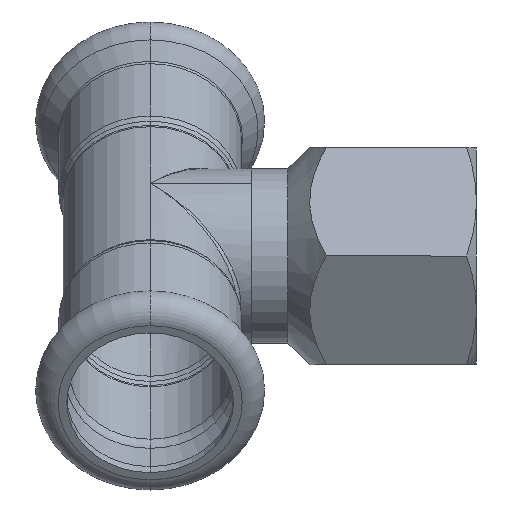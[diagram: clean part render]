
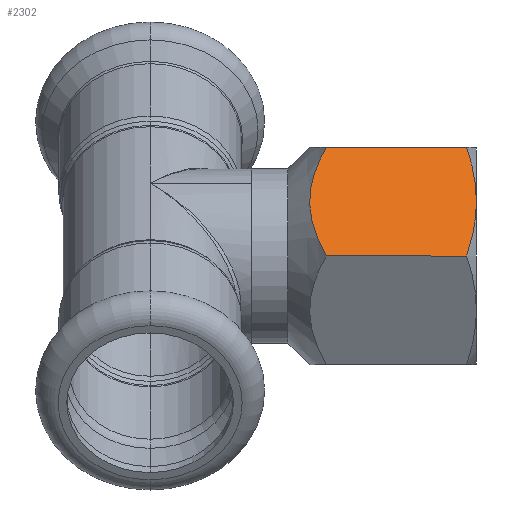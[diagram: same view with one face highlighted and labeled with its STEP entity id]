
A CAD part, left-side view. The second image highlights one B-rep face of the part: STEP entity #2302.
In plain terms, the highlighted planar face has unit normal (-0.866, 0, 0.5).
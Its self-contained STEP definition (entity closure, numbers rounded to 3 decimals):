
#29 = CARTESIAN_POINT ( 'NONE',  ( -11.161, 0.245, 10.669 ) ) ;
#45 = CARTESIAN_POINT ( 'NONE',  ( -8.66, 1.34, 15. ) ) ;
#46 = ORIENTED_EDGE ( 'NONE', *, *, #1574, .T. ) ;
#81 = CARTESIAN_POINT ( 'NONE',  ( -15.952, 21.931, 2.37 ) ) ;
#139 = CARTESIAN_POINT ( 'NONE',  ( -15.899, 0.594, 2.463 ) ) ;
#161 = CARTESIAN_POINT ( 'NONE',  ( -13.728, 0., 6.222 ) ) ;
#318 = EDGE_CURVE ( 'NONE', #508, #344, #1708, .T. ) ;
#344 = VERTEX_POINT ( 'NONE', #45 ) ;
#380 = ORIENTED_EDGE ( 'NONE', *, *, #318, .T. ) ;
#406 = CARTESIAN_POINT ( 'NONE',  ( -11.507, 22.774, 10.069 ) ) ;
#414 = AXIS2_PLACEMENT_3D ( 'NONE', #3397, #1453, #1180 ) ;
#508 = VERTEX_POINT ( 'NONE', #3365 ) ;
#620 = CARTESIAN_POINT ( 'NONE',  ( -14.877, 22.548, 4.232 ) ) ;
#686 = VECTOR ( 'NONE', #1560, 1000. ) ;
#697 = CARTESIAN_POINT ( 'NONE',  ( -17.321, 1.34, 0. ) ) ;
#756 = ORIENTED_EDGE ( 'NONE', *, *, #1474, .F. ) ;
#848 = CARTESIAN_POINT ( 'NONE',  ( -8.66, 1.34, 15. ) ) ;
#923 = CARTESIAN_POINT ( 'NONE',  ( -8.66, 31., 15. ) ) ;
#972 = CARTESIAN_POINT ( 'NONE',  ( -16.612, 0.931, 1.227 ) ) ;
#980 = VERTEX_POINT ( 'NONE', #697 ) ;
#1152 = CARTESIAN_POINT ( 'NONE',  ( -14.512, 22.712, 4.864 ) ) ;
#1178 = DIRECTION ( 'NONE',  ( 0., -1., 0. ) ) ;
#1180 = DIRECTION ( 'NONE',  ( -0.5, 0., -0.866 ) ) ;
#1229 = B_SPLINE_CURVE_WITH_KNOTS ( 'NONE', 3,
 ( #1758, #972, #139, #2322, #161, #3406 ),
 .UNSPECIFIED., .F., .F.,
 ( 4, 2, 4 ),
 ( 0., 0.004, 0.009 ),
 .UNSPECIFIED. ) ;
#1350 = LINE ( 'NONE', #923, #2248 ) ;
#1372 = CARTESIAN_POINT ( 'NONE',  ( -10.079, 0.595, 12.542 ) ) ;
#1453 = DIRECTION ( 'NONE',  ( 0.866, 0., -0.5 ) ) ;
#1474 = EDGE_CURVE ( 'NONE', #1908, #344, #1350, .T. ) ;
#1480 = CARTESIAN_POINT ( 'NONE',  ( -13.384, 22.998, 6.818 ) ) ;
#1560 = DIRECTION ( 'NONE',  ( 0., -1., 0. ) ) ;
#1574 = EDGE_CURVE ( 'NONE', #980, #508, #1229, .T. ) ;
#1638 = CARTESIAN_POINT ( 'NONE',  ( -11.524, 0.154, 10.041 ) ) ;
#1653 = CARTESIAN_POINT ( 'NONE',  ( -12.99, 0., 7.5 ) ) ;
#1694 = CARTESIAN_POINT ( 'NONE',  ( -16.644, 21.356, 1.172 ) ) ;
#1708 = B_SPLINE_CURVE_WITH_KNOTS ( 'NONE', 3,
 ( #1653, #2989, #2434, #1638, #29, #1372, #1926, #848 ),
 .UNSPECIFIED., .F., .F.,
 ( 4, 2, 2, 4 ),
 ( 0.009, 0.011, 0.013, 0.017 ),
 .UNSPECIFIED. ) ;
#1751 = PLANE ( 'NONE',  #414 ) ;
#1755 = CARTESIAN_POINT ( 'NONE',  ( -8.66, 20.679, 15. ) ) ;
#1758 = CARTESIAN_POINT ( 'NONE',  ( -17.321, 1.34, 0. ) ) ;
#1769 = CARTESIAN_POINT ( 'NONE',  ( -12.25, 23.003, 8.782 ) ) ;
#1908 = VERTEX_POINT ( 'NONE', #3381 ) ;
#1926 = CARTESIAN_POINT ( 'NONE',  ( -9.367, 0.932, 13.776 ) ) ;
#2068 = ORIENTED_EDGE ( 'NONE', *, *, #2428, .T. ) ;
#2248 = VECTOR ( 'NONE', #1178, 1000. ) ;
#2302 = ADVANCED_FACE ( 'NONE', ( #3434 ), #1751, .F. ) ;
#2322 = CARTESIAN_POINT ( 'NONE',  ( -14.457, 0.128, 4.96 ) ) ;
#2428 = EDGE_CURVE ( 'NONE', #3243, #980, #2864, .T. ) ;
#2434 = CARTESIAN_POINT ( 'NONE',  ( -12.254, 0.032, 8.776 ) ) ;
#2466 = ORIENTED_EDGE ( 'NONE', *, *, #2666, .F. ) ;
#2575 = CARTESIAN_POINT ( 'NONE',  ( -10.042, 21.944, 12.607 ) ) ;
#2666 = EDGE_CURVE ( 'NONE', #3243, #1908, #3226, .T. ) ;
#2758 = CARTESIAN_POINT ( 'NONE',  ( -17.321, 20.679, 0. ) ) ;
#2864 = LINE ( 'NONE', #2875, #686 ) ;
#2875 = CARTESIAN_POINT ( 'NONE',  ( -17.321, 31., 0. ) ) ;
#2989 = CARTESIAN_POINT ( 'NONE',  ( -12.623, 0., 8.136 ) ) ;
#3112 = CARTESIAN_POINT ( 'NONE',  ( -9.341, 21.36, 13.821 ) ) ;
#3216 = EDGE_LOOP ( 'NONE', ( #2068, #46, #380, #756, #2466 ) ) ;
#3226 = B_SPLINE_CURVE_WITH_KNOTS ( 'NONE', 3,
 ( #3353, #1694, #81, #620, #1152, #3326, #1480, #1769, #406, #2575, #3112, #1755 ),
 .UNSPECIFIED., .F., .F.,
 ( 4, 2, 2, 2, 2, 4 ),
 ( 0., 0.004, 0.007, 0.009, 0.013, 0.018 ),
 .UNSPECIFIED. ) ;
#3243 = VERTEX_POINT ( 'NONE', #2758 ) ;
#3326 = CARTESIAN_POINT ( 'NONE',  ( -13.768, 22.938, 6.153 ) ) ;
#3353 = CARTESIAN_POINT ( 'NONE',  ( -17.321, 20.679, 0. ) ) ;
#3365 = CARTESIAN_POINT ( 'NONE',  ( -12.99, 0., 7.5 ) ) ;
#3381 = CARTESIAN_POINT ( 'NONE',  ( -8.66, 20.679, 15. ) ) ;
#3397 = CARTESIAN_POINT ( 'NONE',  ( -17.321, 31., 0. ) ) ;
#3406 = CARTESIAN_POINT ( 'NONE',  ( -12.99, 0., 7.5 ) ) ;
#3434 = FACE_OUTER_BOUND ( 'NONE', #3216, .T. ) ;
